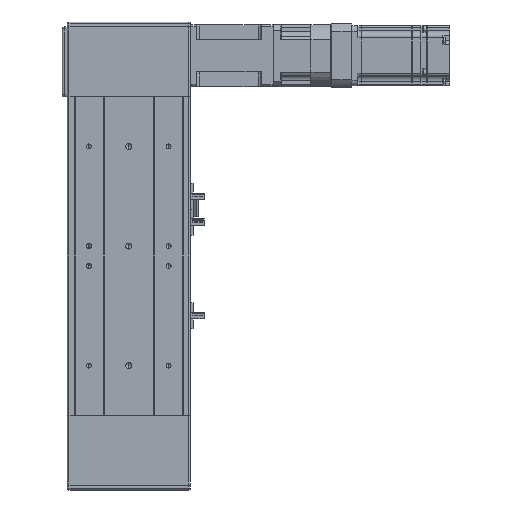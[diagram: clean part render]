
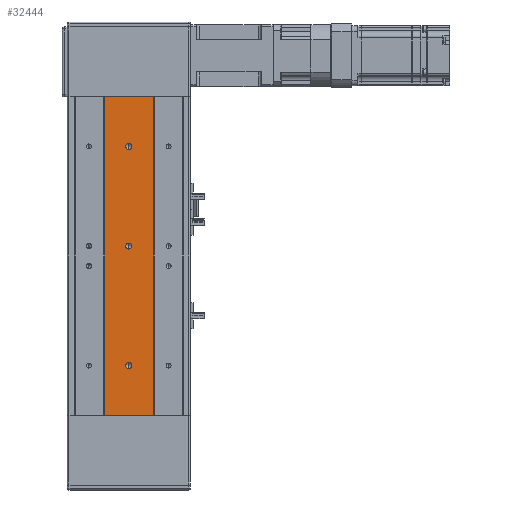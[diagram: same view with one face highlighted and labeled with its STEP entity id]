
A CAD part, front view. The second image highlights one B-rep face of the part: STEP entity #32444.
In plain terms, the highlighted planar face has unit normal (0, -1, 0).
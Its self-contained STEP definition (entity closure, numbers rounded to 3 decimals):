
#580 = CARTESIAN_POINT ( 'NONE',  ( 0., -42., -113. ) ) ;
#644 = CARTESIAN_POINT ( 'NONE',  ( 0., -42., 107. ) ) ;
#661 = CARTESIAN_POINT ( 'NONE',  ( 0., -42., 7. ) ) ;
#663 = CARTESIAN_POINT ( 'NONE',  ( 0., -42., 113. ) ) ;
#665 = CARTESIAN_POINT ( 'NONE',  ( 0., -42., -107. ) ) ;
#691 = CARTESIAN_POINT ( 'NONE',  ( 0., -42., 13. ) ) ;
#9262 = CARTESIAN_POINT ( 'NONE',  ( 0., -42., 110. ) ) ;
#9379 = DIRECTION ( 'NONE',  ( 0., 0., -1. ) ) ;
#9383 = DIRECTION ( 'NONE',  ( 0., -1., 0. ) ) ;
#9781 = CARTESIAN_POINT ( 'NONE',  ( 24.5, -42., 160. ) ) ;
#9849 = CARTESIAN_POINT ( 'NONE',  ( -24.5, -42., -160. ) ) ;
#9854 = CARTESIAN_POINT ( 'NONE',  ( 24.5, -42., -160. ) ) ;
#9930 = CARTESIAN_POINT ( 'NONE',  ( -24.5, -42., 160. ) ) ;
#12883 = CIRCLE ( 'NONE', #40588, 3. ) ;
#13205 = CIRCLE ( 'NONE', #40596, 3. ) ;
#13323 = CIRCLE ( 'NONE', #40598, 3. ) ;
#15058 = CARTESIAN_POINT ( 'NONE',  ( 0., -42., 10. ) ) ;
#15072 = DIRECTION ( 'NONE',  ( 0., 0., -1. ) ) ;
#15116 = DIRECTION ( 'NONE',  ( 0., -1., 0. ) ) ;
#15591 = DIRECTION ( 'NONE',  ( 0., -1., 0. ) ) ;
#15598 = CARTESIAN_POINT ( 'NONE',  ( 0., -42., -110. ) ) ;
#15600 = DIRECTION ( 'NONE',  ( 0., 0., -1. ) ) ;
#19721 = CARTESIAN_POINT ( 'NONE',  ( 0., -42., 160. ) ) ;
#19722 = DIRECTION ( 'NONE',  ( -1., 0., 0. ) ) ;
#19723 = CARTESIAN_POINT ( 'NONE',  ( 0., -42., 110. ) ) ;
#19728 = DIRECTION ( 'NONE',  ( 0., 0., -1. ) ) ;
#19733 = DIRECTION ( 'NONE',  ( 0., -1., 0. ) ) ;
#19756 = DIRECTION ( 'NONE',  ( 0., 0., -1. ) ) ;
#19912 = CARTESIAN_POINT ( 'NONE',  ( 0., -42., -110. ) ) ;
#19957 = DIRECTION ( 'NONE',  ( 0., 0., -1. ) ) ;
#19982 = DIRECTION ( 'NONE',  ( 0., -1., 0. ) ) ;
#20727 = CARTESIAN_POINT ( 'NONE',  ( 0., -42., -160. ) ) ;
#20748 = CARTESIAN_POINT ( 'NONE',  ( 24.5, -42., 160. ) ) ;
#20802 = DIRECTION ( 'NONE',  ( 0., 0., -1. ) ) ;
#20847 = DIRECTION ( 'NONE',  ( -1., 0., 0. ) ) ;
#20913 = CARTESIAN_POINT ( 'NONE',  ( 0., -42., 10. ) ) ;
#20917 = DIRECTION ( 'NONE',  ( 0., -1., 0. ) ) ;
#23436 = DIRECTION ( 'NONE',  ( 0., 0., -1. ) ) ;
#23476 = CARTESIAN_POINT ( 'NONE',  ( -24.5, -42., 160. ) ) ;
#25214 = VERTEX_POINT ( 'NONE', #9781 ) ;
#25298 = VERTEX_POINT ( 'NONE', #9854 ) ;
#25300 = VERTEX_POINT ( 'NONE', #9849 ) ;
#25406 = VERTEX_POINT ( 'NONE', #9930 ) ;
#25565 = LINE ( 'NONE', #23476, #25615 ) ;
#25597 = LINE ( 'NONE', #20748, #25633 ) ;
#25615 = VECTOR ( 'NONE', #23436, 1000. ) ;
#25633 = VECTOR ( 'NONE', #20802, 1000. ) ;
#25675 = CIRCLE ( 'NONE', #40449, 3. ) ;
#25685 = LINE ( 'NONE', #19721, #25731 ) ;
#25731 = VECTOR ( 'NONE', #19722, 1000. ) ;
#25753 = CIRCLE ( 'NONE', #40440, 3. ) ;
#25765 = LINE ( 'NONE', #20727, #25787 ) ;
#25787 = VECTOR ( 'NONE', #20847, 1000. ) ;
#25827 = CIRCLE ( 'NONE', #40465, 3. ) ;
#29615 = VERTEX_POINT ( 'NONE', #580 ) ;
#29621 = VERTEX_POINT ( 'NONE', #644 ) ;
#29646 = VERTEX_POINT ( 'NONE', #661 ) ;
#29650 = VERTEX_POINT ( 'NONE', #663 ) ;
#29653 = VERTEX_POINT ( 'NONE', #665 ) ;
#29677 = VERTEX_POINT ( 'NONE', #691 ) ;
#32444 = ADVANCED_FACE ( 'NONE', ( #74880, #74832, #74908, #74866 ), #65445, .T. ) ;
#36724 = EDGE_LOOP ( 'NONE', ( #67996, #66824 ) ) ;
#36747 = EDGE_LOOP ( 'NONE', ( #66865, #68006, #67976, #66885 ) ) ;
#36750 = EDGE_LOOP ( 'NONE', ( #67983, #66839 ) ) ;
#36791 = EDGE_LOOP ( 'NONE', ( #66859, #68009 ) ) ;
#40440 = AXIS2_PLACEMENT_3D ( 'NONE', #19723, #19733, #19756 ) ;
#40449 = AXIS2_PLACEMENT_3D ( 'NONE', #20913, #20917, #19728 ) ;
#40465 = AXIS2_PLACEMENT_3D ( 'NONE', #19912, #19982, #19957 ) ;
#40588 = AXIS2_PLACEMENT_3D ( 'NONE', #15598, #15591, #15600 ) ;
#40596 = AXIS2_PLACEMENT_3D ( 'NONE', #15058, #15116, #15072 ) ;
#40598 = AXIS2_PLACEMENT_3D ( 'NONE', #9262, #9383, #9379 ) ;
#50635 = EDGE_CURVE ( 'NONE', #25406, #25300, #25565, .T. ) ;
#50652 = EDGE_CURVE ( 'NONE', #25214, #25298, #25597, .T. ) ;
#50663 = EDGE_CURVE ( 'NONE', #25298, #25300, #25765, .T. ) ;
#50677 = EDGE_CURVE ( 'NONE', #29646, #29677, #25675, .T. ) ;
#50691 = EDGE_CURVE ( 'NONE', #25214, #25406, #25685, .T. ) ;
#50692 = EDGE_CURVE ( 'NONE', #29621, #29650, #25753, .T. ) ;
#50721 = EDGE_CURVE ( 'NONE', #29615, #29653, #25827, .T. ) ;
#51159 = EDGE_CURVE ( 'NONE', #29653, #29615, #12883, .T. ) ;
#51228 = EDGE_CURVE ( 'NONE', #29677, #29646, #13205, .T. ) ;
#51253 = EDGE_CURVE ( 'NONE', #29650, #29621, #13323, .T. ) ;
#60808 = AXIS2_PLACEMENT_3D ( 'NONE', #65457, #65463, #65427 ) ;
#65427 = DIRECTION ( 'NONE',  ( 0., 0., -1. ) ) ;
#65445 = PLANE ( 'NONE',  #60808 ) ;
#65457 = CARTESIAN_POINT ( 'NONE',  ( 0., -42., 160. ) ) ;
#65463 = DIRECTION ( 'NONE',  ( 0., -1., 0. ) ) ;
#66824 = ORIENTED_EDGE ( 'NONE', *, *, #51159, .F. ) ;
#66839 = ORIENTED_EDGE ( 'NONE', *, *, #51253, .F. ) ;
#66859 = ORIENTED_EDGE ( 'NONE', *, *, #50677, .F. ) ;
#66865 = ORIENTED_EDGE ( 'NONE', *, *, #50663, .F. ) ;
#66885 = ORIENTED_EDGE ( 'NONE', *, *, #50635, .T. ) ;
#67976 = ORIENTED_EDGE ( 'NONE', *, *, #50691, .T. ) ;
#67983 = ORIENTED_EDGE ( 'NONE', *, *, #50692, .F. ) ;
#67996 = ORIENTED_EDGE ( 'NONE', *, *, #50721, .F. ) ;
#68006 = ORIENTED_EDGE ( 'NONE', *, *, #50652, .F. ) ;
#68009 = ORIENTED_EDGE ( 'NONE', *, *, #51228, .F. ) ;
#74832 = FACE_BOUND ( 'NONE', #36750, .T. ) ;
#74866 = FACE_OUTER_BOUND ( 'NONE', #36747, .T. ) ;
#74880 = FACE_BOUND ( 'NONE', #36791, .T. ) ;
#74908 = FACE_BOUND ( 'NONE', #36724, .T. ) ;
